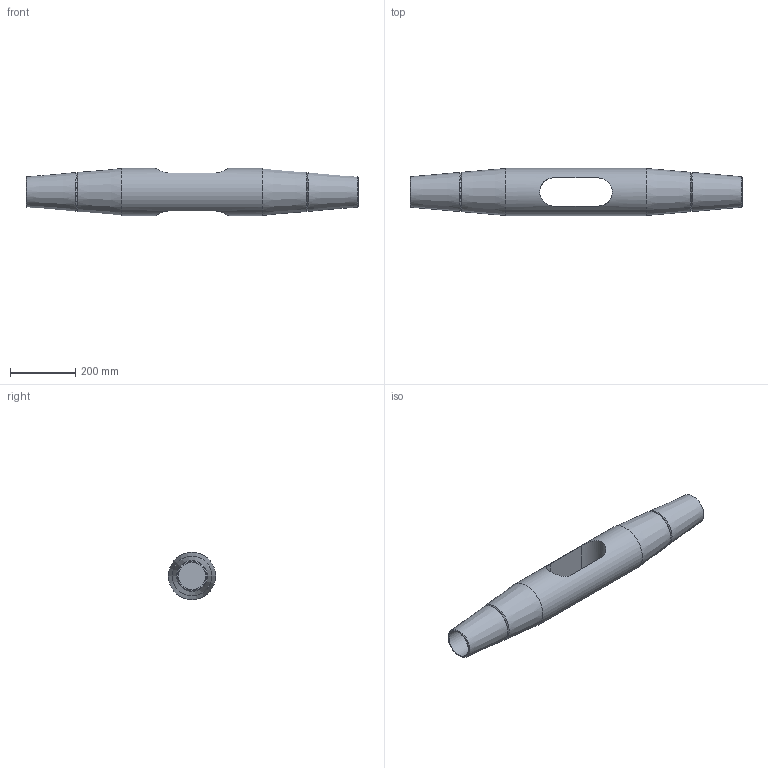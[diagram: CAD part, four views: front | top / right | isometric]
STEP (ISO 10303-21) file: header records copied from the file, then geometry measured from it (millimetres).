
FILE_DESCRIPTION(/* description */ (''),/* implementation_level */ '2;1');
FILE_NAME(/* name */ 'G:\Engineering\700 CAD\Internet-PX-1-step-igs-dxf\520-KMF-Arbeitsdateien\520-080-KMF.stp',/* time_stamp */ '2020-07-02T13:28:18+02:00',/* author */ ('schwarz'),/* organization */ (''),/* preprocessor_version */ 'ST-DEVELOPER v16.1',/* originating_system */ 'Autodesk Inventor 2016',/* authorisation */ '');
FILE_SCHEMA (('AUTOMOTIVE_DESIGN { 1 0 10303 214 3 1 1 }'));
Length unit declared in the file: centimetre
Products named in the file (1): Kreuzmuffen-Set 520 080 Kunde
Bounding box: 1014 x 144 x 144 mm (x, y, z)
Volume: 9908002 mm3; surface area: 516526 mm2
Topology: 1 solids, 1 shells, 21 faces, 41 edges, 24 vertices
Faces by surface type: cone 10, plane 6, cylinder 5
Full cylindrical faces by diameter (mm): 83 x2, 144 x1
Entity records: 653 total; most frequent: CARTESIAN_POINT 206, DIRECTION 84, ORIENTED_EDGE 56, EDGE_LOOP 38, AXIS2_PLACEMENT_3D 38, EDGE_CURVE 28, VERTEX_POINT 24, STYLED_ITEM 22
